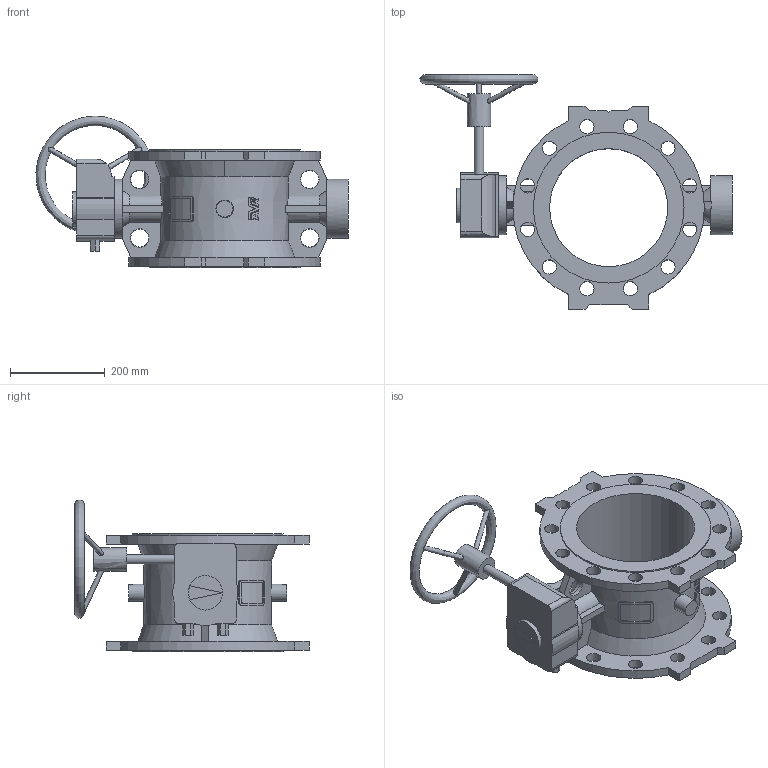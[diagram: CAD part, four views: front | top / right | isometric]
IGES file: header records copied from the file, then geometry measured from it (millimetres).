
Start section: SolidWorks IGES file using analytic representation for surfaces
Global section: file name: \\avksan2\techshare\PBM outline export from Enovia\O_756_1_DN250_1XX00_AA0_igs.igs; native system: SolidWorks 2012; preprocessor: SolidWorks 2012; author: pbm; date: 160304.122850; units: millimetre
Bounding box: 660.31 x 496.48 x 321 mm (x, y, z)
Surface area: 1025751.9 mm2 (no closed solid volume)
Topology: 0 solids, 0 shells, 363 faces, 2906 edges, 2818 vertices
Faces by surface type: bspline 266, revolution 97
